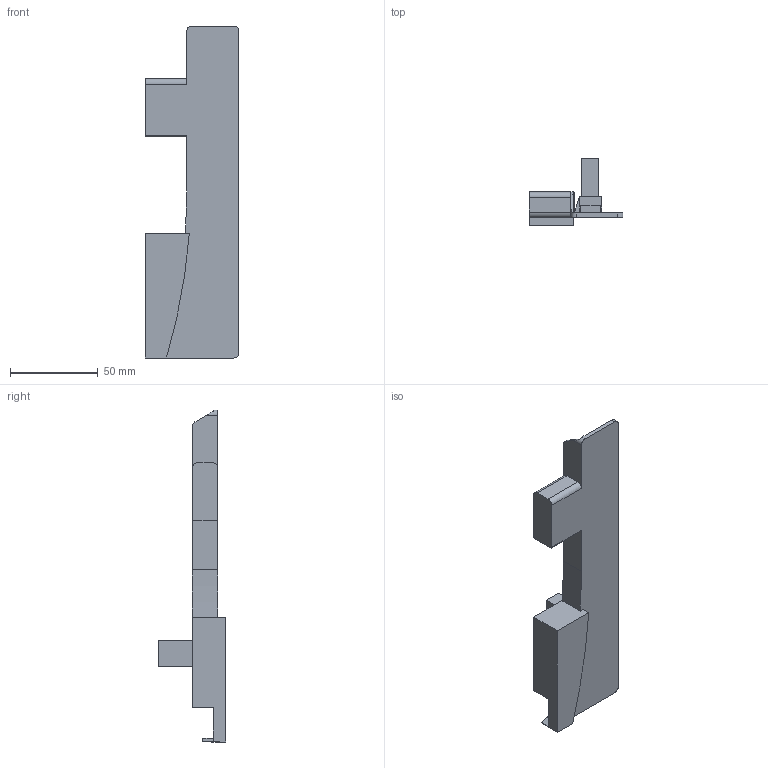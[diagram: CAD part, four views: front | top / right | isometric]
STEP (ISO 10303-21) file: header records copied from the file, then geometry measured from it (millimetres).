
FILE_DESCRIPTION (( 'STEP AP214' ), '1' );
FILE_NAME ('DWD-XP Innenschubhalter für Innenauszug mit Rechteck-Reling H182 rechts_KK066250002.step', '2012-01-10T13:48:49', ( 'Grass' ), ( '' ), 'SwSTEP 2.0', 'SolidWorks 2011', '' );
FILE_SCHEMA (( 'AUTOMOTIVE_DESIGN' ));
Length unit declared in the file: millimetre
Products named in the file (1): DWD-XP Innenschubhalter für Innenauszug mit Rechteck-Reling H182 rechts_KK066250002
Bounding box: 53.5 x 38.6 x 189 mm (x, y, z)
Volume: 61037.1 mm3; surface area: 25965.9 mm2
Topology: 1 solids, 1 shells, 60 faces, 165 edges, 109 vertices
Faces by surface type: plane 48, cylinder 12
Entity records: 1923 total; most frequent: CARTESIAN_POINT 338, ORIENTED_EDGE 330, DIRECTION 310, EDGE_CURVE 165, VECTOR 140, LINE 140, VERTEX_POINT 109, AXIS2_PLACEMENT_3D 85
